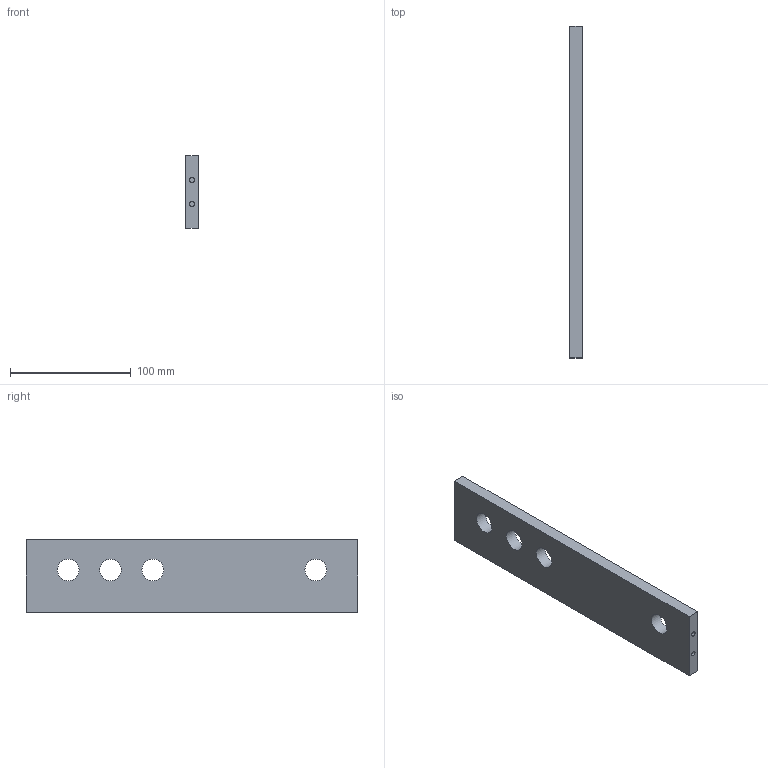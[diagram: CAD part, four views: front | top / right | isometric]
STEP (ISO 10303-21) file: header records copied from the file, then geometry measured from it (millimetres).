
FILE_DESCRIPTION(('FreeCAD Model'),'2;1');
FILE_NAME( '/home/bluelambda/Documents/Arcade/cad/step/control_panel_front.step', '2016-04-10T13:02:31',('Author'),(''), 'Open CASCADE STEP processor 6.9','FreeCAD','Unknown');
FILE_SCHEMA(('AUTOMOTIVE_DESIGN { 1 0 10303 214 1 1 1 1 }'));
Length unit declared in the file: millimetre
Products named in the file (1): control_panel_front
Bounding box: 10 x 275 x 60 mm (x, y, z)
Volume: 154318.6 mm3; surface area: 40428.8 mm2
Topology: 1 solids, 1 shells, 18 faces, 36 edges, 24 vertices
Faces by surface type: plane 10, cylinder 8
Full cylindrical faces by diameter (mm): 4 x4, 18 x4
Entity records: 1005 total; most frequent: CARTESIAN_POINT 199, DIRECTION 154, LINE 76, VECTOR 76, ORIENTED_EDGE 72, PCURVE 72, DEFINITIONAL_REPRESENTATION 72, EDGE_CURVE 36
